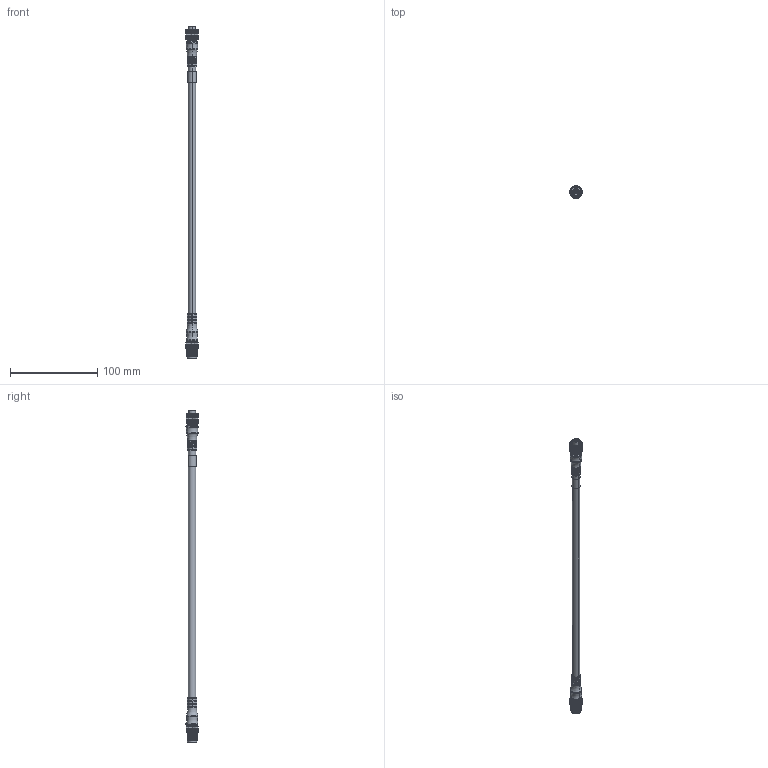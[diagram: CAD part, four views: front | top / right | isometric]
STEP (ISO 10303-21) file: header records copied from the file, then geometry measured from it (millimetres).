
FILE_DESCRIPTION((''),'2;1');
FILE_NAME('889D-F4HCDM-2','2013-11-29T',('20019289'),(''),'PRO/ENGINEER BY PARAMETRIC TECHNOLOGY CORPORATION, 2012480','PRO/ENGINEER BY PARAMETRIC TECHNOLOGY CORPORATION, 2012480','');
FILE_SCHEMA(('CONFIG_CONTROL_DESIGN'));
Length unit declared in the file: inch
Products named in the file (1): 889D-F4HCDM-2
Bounding box: 14 x 14.25 x 381 mm (x, y, z)
Volume: 25162.4 mm3; surface area: 14061.4 mm2
Topology: 1 solids, 1 shells, 1058 faces, 2589 edges, 1562 vertices
Faces by surface type: plane 492, cylinder 402, cone 112, torus 52
Entity records: 31830 total; most frequent: CARTESIAN_POINT 6551, DIRECTION 5588, ORIENTED_EDGE 5178, EDGE_CURVE 2589, AXIS2_PLACEMENT_3D 2153, VERTEX_POINT 1562, VECTOR 1282, LINE 1282
